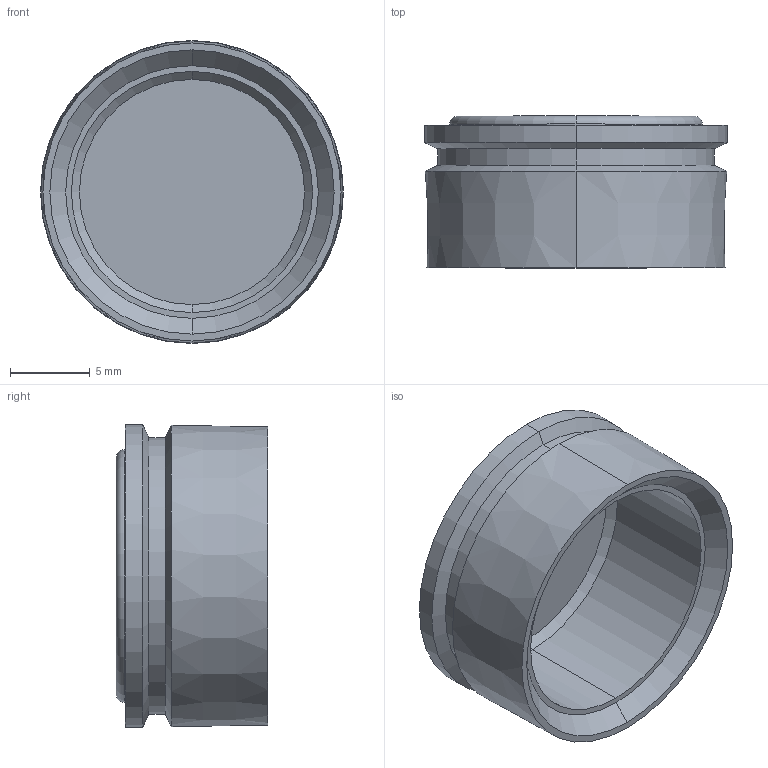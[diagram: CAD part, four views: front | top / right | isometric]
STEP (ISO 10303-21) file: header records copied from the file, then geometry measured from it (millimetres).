
FILE_DESCRIPTION (( 'STEP AP203' ), '1' );
FILE_NAME ('plc-pg-19-00.00.004 Óïëîòíèòåëü (PG19) #sealant (PG19)#.STEP', '2024-04-24T09:36:30', ( '' ), ( '' ), 'SwSTEP 2.0', 'SolidWorks 2021', '' );
FILE_SCHEMA (( 'CONFIG_CONTROL_DESIGN' ));
Length unit declared in the file: millimetre
Products named in the file (1): plc-pg-19-00.00.004 Óïëîòíèòåëü (PG19) #sealant (PG19)#
Bounding box: 19 x 9.5 x 19 mm (x, y, z)
Volume: 893.8 mm3; surface area: 1539.4 mm2
Topology: 1 solids, 1 shells, 25 faces, 48 edges, 28 vertices
Faces by surface type: cone 12, cylinder 6, plane 5, torus 2
Entity records: 713 total; most frequent: DIRECTION 130, CARTESIAN_POINT 102, ORIENTED_EDGE 96, AXIS2_PLACEMENT_3D 56, EDGE_CURVE 48, CIRCLE 30, VERTEX_POINT 28, EDGE_LOOP 28
